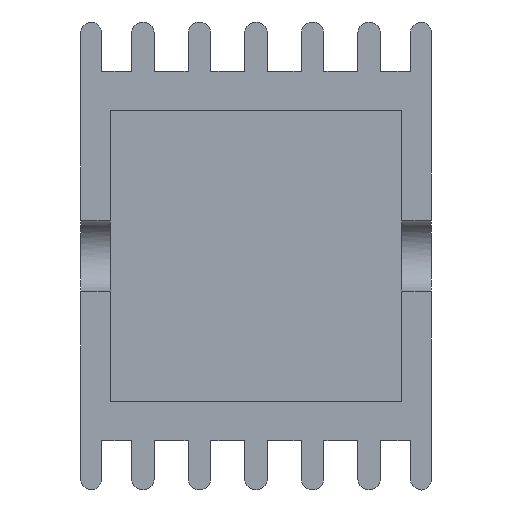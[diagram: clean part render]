
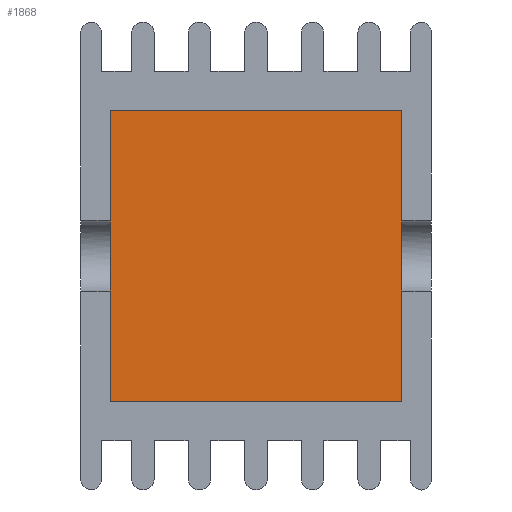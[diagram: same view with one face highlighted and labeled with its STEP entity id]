
A CAD part, left-side view. The second image highlights one B-rep face of the part: STEP entity #1868.
In plain terms, the highlighted planar face has unit normal (-1, 0, 0).
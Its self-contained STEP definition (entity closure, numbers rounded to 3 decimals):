
#14=LINE($,#2677,#218);
#15=LINE($,#2681,#219);
#16=LINE($,#2683,#220);
#17=LINE($,#2685,#221);
#18=LINE($,#2687,#222);
#19=LINE($,#2689,#223);
#20=LINE($,#2690,#224);
#21=LINE($,#2691,#225);
#218=VECTOR($,#2164,2.291);
#219=VECTOR($,#2167,22.4);
#220=VECTOR($,#2168,10.054);
#221=VECTOR($,#2169,2.291);
#222=VECTOR($,#2170,10.054);
#223=VECTOR($,#2171,22.4);
#224=VECTOR($,#2172,10.054);
#225=VECTOR($,#2173,10.054);
#427=PLANE($,#1980);
#512=FACE_OUTER_BOUND($,#613,.T.);
#613=EDGE_LOOP($,(#1222,#1223,#1224,#1225,#1226,#1227,#1228,#1229));
#776=VERTEX_POINT($,#2674);
#777=VERTEX_POINT($,#2675);
#778=VERTEX_POINT($,#2679);
#779=VERTEX_POINT($,#2680);
#780=VERTEX_POINT($,#2682);
#781=VERTEX_POINT($,#2684);
#782=VERTEX_POINT($,#2686);
#783=VERTEX_POINT($,#2688);
#953=EDGE_CURVE($,#776,#777,#14,.T.);
#954=EDGE_CURVE($,#778,#779,#15,.T.);
#955=EDGE_CURVE($,#780,#778,#16,.T.);
#956=EDGE_CURVE($,#780,#781,#17,.T.);
#957=EDGE_CURVE($,#782,#781,#18,.T.);
#958=EDGE_CURVE($,#783,#782,#19,.T.);
#959=EDGE_CURVE($,#776,#783,#20,.T.);
#960=EDGE_CURVE($,#779,#777,#21,.T.);
#1222=ORIENTED_EDGE($,*,*,#954,.F.);
#1223=ORIENTED_EDGE($,*,*,#955,.F.);
#1224=ORIENTED_EDGE($,*,*,#956,.T.);
#1225=ORIENTED_EDGE($,*,*,#957,.F.);
#1226=ORIENTED_EDGE($,*,*,#958,.F.);
#1227=ORIENTED_EDGE($,*,*,#959,.F.);
#1228=ORIENTED_EDGE($,*,*,#953,.T.);
#1229=ORIENTED_EDGE($,*,*,#960,.F.);
#1868=ADVANCED_FACE($,(#512),#427,.F.);
#1980=AXIS2_PLACEMENT_3D($,#2678,#2165,#2166);
#2164=DIRECTION($,(0.,0.,1.));
#2165=DIRECTION('center_axis',(1.,0.,0.));
#2166=DIRECTION('ref_axis',(0.,0.,-1.));
#2167=DIRECTION($,(0.,-1.,0.));
#2168=DIRECTION($,(0.,0.,1.));
#2169=DIRECTION($,(0.,0.,-1.));
#2170=DIRECTION($,(0.,0.,1.));
#2171=DIRECTION($,(0.,1.,0.));
#2172=DIRECTION($,(0.,0.,-1.));
#2173=DIRECTION($,(0.,0.,-1.));
#2674=CARTESIAN_POINT('',(-157.312,7.001,25.692));
#2675=CARTESIAN_POINT('',(-157.312,7.001,27.983));
#2677=CARTESIAN_POINT($,(-157.312,7.001,38.037));
#2678=CARTESIAN_POINT('Origin',(-157.312,18.201,26.837));
#2679=CARTESIAN_POINT('',(-157.312,29.401,38.037));
#2680=CARTESIAN_POINT('',(-157.312,7.001,38.037));
#2681=CARTESIAN_POINT($,(-157.312,12.601,38.037));
#2682=CARTESIAN_POINT('',(-157.312,29.401,27.983));
#2683=CARTESIAN_POINT($,(-157.312,29.401,32.437));
#2684=CARTESIAN_POINT('',(-157.312,29.401,25.692));
#2685=CARTESIAN_POINT($,(-157.312,29.401,15.637));
#2686=CARTESIAN_POINT('',(-157.312,29.401,15.637));
#2687=CARTESIAN_POINT($,(-157.312,29.401,32.437));
#2688=CARTESIAN_POINT('',(-157.312,7.001,15.637));
#2689=CARTESIAN_POINT($,(-157.312,23.801,15.637));
#2690=CARTESIAN_POINT($,(-157.312,7.001,21.237));
#2691=CARTESIAN_POINT($,(-157.312,7.001,21.237));
